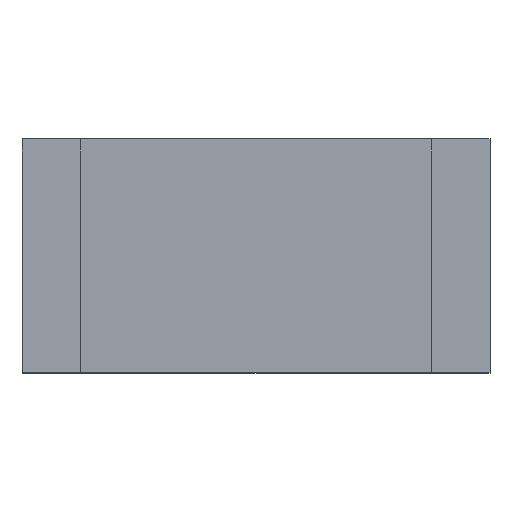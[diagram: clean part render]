
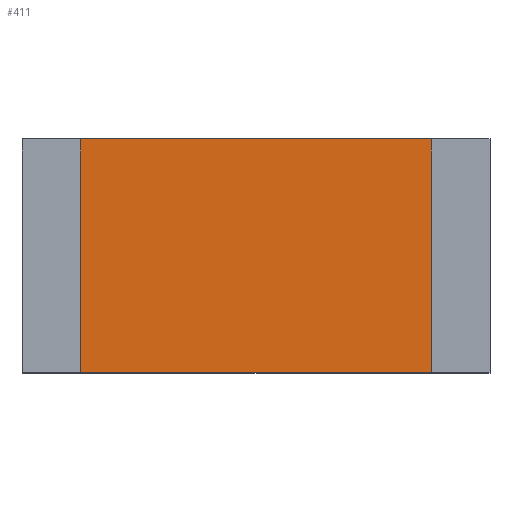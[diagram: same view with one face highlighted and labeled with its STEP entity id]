
A CAD part, top view. The second image highlights one B-rep face of the part: STEP entity #411.
In plain terms, the highlighted planar face has unit normal (0, 0, 1).
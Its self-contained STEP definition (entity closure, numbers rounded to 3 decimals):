
#411=ADVANCED_FACE('',(#810),#812,.T.);
#810=FACE_BOUND('',#811,.T.);
#811=EDGE_LOOP('',(#1097,#1098,#1099,#1100));
#812=PLANE('',#813);
#813=AXIS2_PLACEMENT_3D('',#814,#815,#816);
#814=CARTESIAN_POINT('',(0.,0.,0.355));
#815=DIRECTION('',(0.,0.,1.));
#816=DIRECTION('',(1.,0.,0.));
#1097=ORIENTED_EDGE('',*,*,#1269,.T.);
#1098=ORIENTED_EDGE('',*,*,#1273,.T.);
#1099=ORIENTED_EDGE('',*,*,#1276,.T.);
#1100=ORIENTED_EDGE('',*,*,#1278,.T.);
#1269=EDGE_CURVE('',#1435,#1433,#1436,.T.);
#1273=EDGE_CURVE('',#1433,#1440,#1442,.T.);
#1276=EDGE_CURVE('',#1440,#1445,#1447,.T.);
#1278=EDGE_CURVE('',#1445,#1435,#1449,.T.);
#1433=VERTEX_POINT('',#1760);
#1435=VERTEX_POINT('',#1764);
#1436=LINE('',#1765,#1766);
#1440=VERTEX_POINT('',#1775);
#1442=LINE('',#1779,#1780);
#1445=VERTEX_POINT('',#1786);
#1447=LINE('',#1790,#1791);
#1449=LINE('',#1796,#1797);
#1760=CARTESIAN_POINT('',(-1.2,0.8,0.355));
#1764=CARTESIAN_POINT('',(1.2,0.8,0.355));
#1765=CARTESIAN_POINT('',(1.2,0.8,0.355));
#1766=VECTOR('',#1767,1.);
#1767=DIRECTION('',(-1.,0.,0.));
#1775=CARTESIAN_POINT('',(-1.2,-0.8,0.355));
#1779=CARTESIAN_POINT('',(-1.2,0.8,0.355));
#1780=VECTOR('',#1781,1.);
#1781=DIRECTION('',(0.,-1.,0.));
#1786=CARTESIAN_POINT('',(1.2,-0.8,0.355));
#1790=CARTESIAN_POINT('',(-1.2,-0.8,0.355));
#1791=VECTOR('',#1792,1.);
#1792=DIRECTION('',(1.,0.,0.));
#1796=CARTESIAN_POINT('',(1.2,-0.8,0.355));
#1797=VECTOR('',#1798,1.);
#1798=DIRECTION('',(0.,1.,0.));
